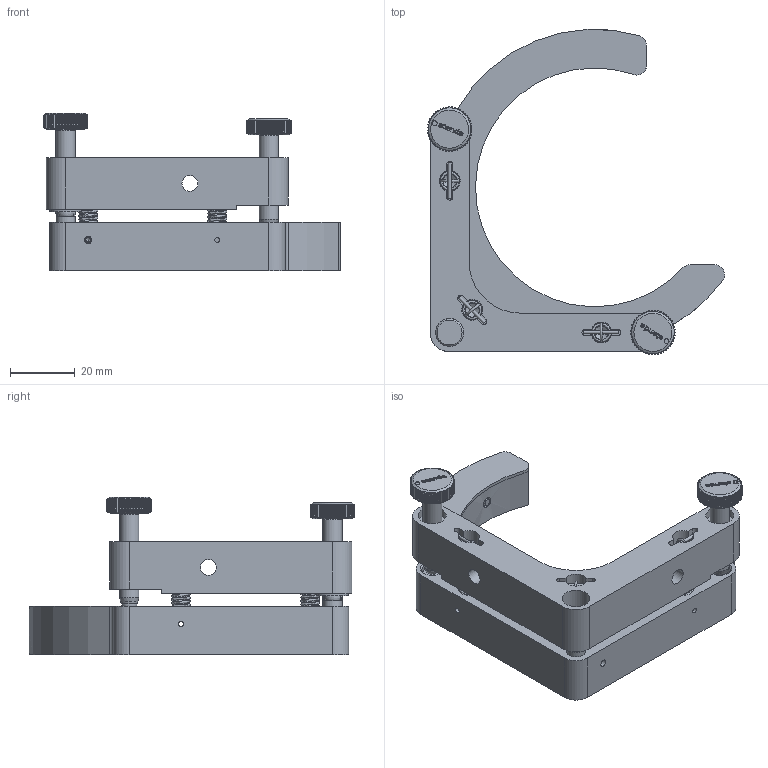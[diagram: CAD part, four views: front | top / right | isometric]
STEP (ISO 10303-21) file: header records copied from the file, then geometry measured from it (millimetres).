
FILE_DESCRIPTION(/* description */ (''),/* implementation_level */ '2;1');
FILE_NAME(/* name */ 'U:\KONSTRUKTORIAI\! ! ! BENDRAS ! ! !\Darius\Darius\Schemos\05\5MBM24\5MBM24-3-2\step\5MBM24-3-2.stp',/* time_stamp */ '2014-04-28T09:14:38+03:00',/* author */ ('Ramunas.Z'),/* organization */ (''),/* preprocessor_version */ 'ST-DEVELOPER v15.2',/* originating_system */ 'Autodesk Inventor 2014',/* authorisation */ '');
FILE_SCHEMA (('AUTOMOTIVE_DESIGN { 1 0 10303 214 3 1 1 }'));
Products named in the file (1): 5MBM24-3-2_Shrinkwrap_1
Bounding box: 92.09 x 100.9 x 48.76 mm (x, y, z)
Volume: 65246.3 mm3; surface area: 30274 mm2
Topology: 20 solids, 20 shells, 1282 faces, 3547 edges, 2341 vertices
Faces by surface type: plane 482, cylinder 479, bspline 261, cone 44, torus 8, sphere 8
Full cylindrical faces by diameter (mm): 0.7 x6, 1 x3, 1.5 x2, 1.567 x6, 2 x3, 2.2 x1, 2.5 x1, 3 x2, 3.1 x2, 3.242 x1, 4 x4, 4.6 x1, 4.76 x2, 4.917 x2, 5 x1, 5.459 x2, 6 x4, 6.1 x3, 6.5 x8, 7.4 x2, 8.7 x6, 9.8 x1, 10.3 x2, 10.5 x2, 13.2 x4
Entity records: 51670 total; most frequent: CARTESIAN_POINT 22211, ORIENTED_EDGE 6708, DIRECTION 4355, EDGE_CURVE 3354, VERTEX_POINT 2283, EDGE_LOOP 1485, AXIS2_PLACEMENT_3D 1469, LINE 1417
